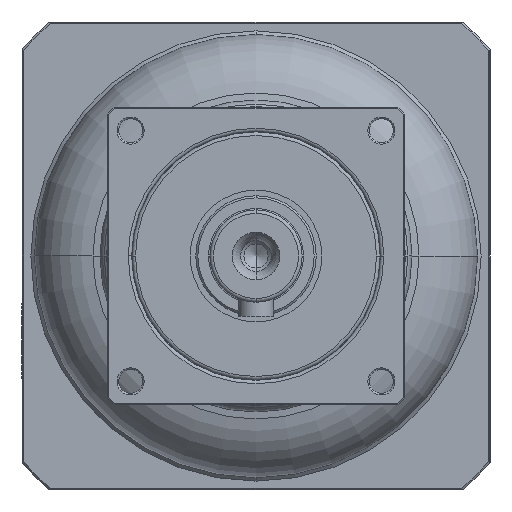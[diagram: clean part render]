
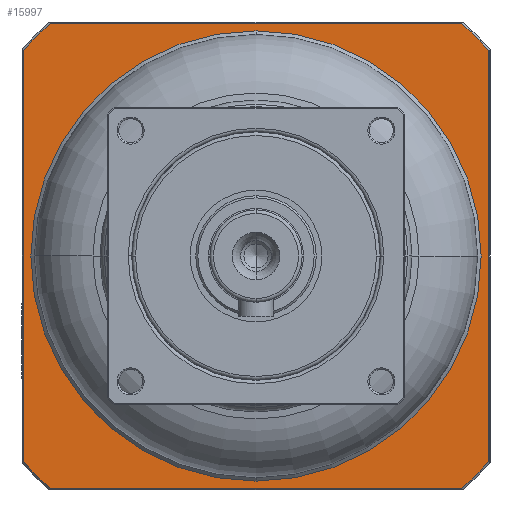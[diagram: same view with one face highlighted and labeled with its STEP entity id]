
A CAD part, left-side view. The second image highlights one B-rep face of the part: STEP entity #15997.
In plain terms, the highlighted planar face has unit normal (-1, 0, 0) as drawn and (0, 0, -1) by its records, which use the part's own axes.
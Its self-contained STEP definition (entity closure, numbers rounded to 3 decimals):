
#14873=CARTESIAN_POINT('',(0.,0.,
2.));
#14874=DIRECTION('',(0.,0.,-1.));
#14875=DIRECTION('',(0.,-1.,0.));
#14876=AXIS2_PLACEMENT_3D('',#14873,#14874,#14875);
#14878=CARTESIAN_POINT('',(0.,0.,
2.));
#14879=DIRECTION('',(0.,0.,-1.));
#14880=DIRECTION('',(0.,1.,0.));
#14881=AXIS2_PLACEMENT_3D('',#14878,#14879,#14880);
#14883=CARTESIAN_POINT('',(0.,0.,2.));
#14884=DIRECTION('',(0.,0.,1.));
#14885=DIRECTION('',(-0.749,-0.663,0.));
#14886=AXIS2_PLACEMENT_3D('',#14883,#14884,#14885);
#14888=DIRECTION('',(1.,0.,0.));
#14889=VECTOR('',#14888,58.055);
#14890=CARTESIAN_POINT('',(-29.028,-32.8,
2.));
#14891=LINE('',#14890,#14889);
#14892=CARTESIAN_POINT('',(0.,0.,2.));
#14893=DIRECTION('',(0.,0.,1.));
#14894=DIRECTION('',(0.663,-0.749,0.));
#14895=AXIS2_PLACEMENT_3D('',#14892,#14893,#14894);
#14897=DIRECTION('',(0.,1.,0.));
#14898=VECTOR('',#14897,58.055);
#14899=CARTESIAN_POINT('',(32.8,-29.028,
2.));
#14900=LINE('',#14899,#14898);
#14901=CARTESIAN_POINT('',(0.,0.,2.));
#14902=DIRECTION('',(0.,0.,1.));
#14903=DIRECTION('',(0.749,0.663,0.));
#14904=AXIS2_PLACEMENT_3D('',#14901,#14902,#14903);
#14906=DIRECTION('',(-1.,0.,0.));
#14907=VECTOR('',#14906,58.055);
#14908=CARTESIAN_POINT('',(29.028,32.8,2.));
#14909=LINE('',#14908,#14907);
#14910=CARTESIAN_POINT('',(0.,0.,2.));
#14911=DIRECTION('',(0.,0.,1.));
#14912=DIRECTION('',(-0.663,0.749,0.));
#14913=AXIS2_PLACEMENT_3D('',#14910,#14911,#14912);
#14915=DIRECTION('',(0.,-1.,0.));
#14916=VECTOR('',#14915,58.055);
#14917=CARTESIAN_POINT('',(-32.8,29.028,
2.));
#14918=LINE('',#14917,#14916);
#15652=CARTESIAN_POINT('',(0.,-31.75,2.));
#15653=CARTESIAN_POINT('',(0.,31.75,2.));
#15654=VERTEX_POINT('',#15652);
#15655=VERTEX_POINT('',#15653);
#15724=CARTESIAN_POINT('',(-32.8,-29.028,2.));
#15725=CARTESIAN_POINT('',(-29.028,-32.8,2.));
#15726=VERTEX_POINT('',#15724);
#15727=VERTEX_POINT('',#15725);
#15732=CARTESIAN_POINT('',(29.028,-32.8,
2.));
#15733=VERTEX_POINT('',#15732);
#15736=CARTESIAN_POINT('',(32.8,-29.028,2.));
#15737=VERTEX_POINT('',#15736);
#15740=CARTESIAN_POINT('',(32.8,29.028,2.));
#15741=VERTEX_POINT('',#15740);
#15744=CARTESIAN_POINT('',(29.028,32.8,2.));
#15745=VERTEX_POINT('',#15744);
#15748=CARTESIAN_POINT('',(-29.028,32.8,
2.));
#15749=VERTEX_POINT('',#15748);
#15754=CARTESIAN_POINT('',(-32.8,29.028,2.));
#15755=VERTEX_POINT('',#15754);
#15969=CARTESIAN_POINT('',(0.,0.,2.));
#15970=DIRECTION('',(0.,0.,1.));
#15971=DIRECTION('',(0.,1.,0.));
#15972=AXIS2_PLACEMENT_3D('',#15969,#15970,#15971);
#15973=PLANE('',#15972);
#15975=ORIENTED_EDGE('',*,*,#15974,.T.);
#15977=ORIENTED_EDGE('',*,*,#15976,.T.);
#15979=ORIENTED_EDGE('',*,*,#15978,.T.);
#15981=ORIENTED_EDGE('',*,*,#15980,.T.);
#15983=ORIENTED_EDGE('',*,*,#15982,.T.);
#15985=ORIENTED_EDGE('',*,*,#15984,.T.);
#15987=ORIENTED_EDGE('',*,*,#15986,.T.);
#15989=ORIENTED_EDGE('',*,*,#15988,.T.);
#15990=EDGE_LOOP('',(#15975,#15977,#15979,#15981,#15983,#15985,#15987,#15989));
#15991=FACE_OUTER_BOUND('',#15990,.F.);
#15993=ORIENTED_EDGE('',*,*,#15992,.T.);
#15994=ORIENTED_EDGE('',*,*,#15959,.T.);
#15995=EDGE_LOOP('',(#15993,#15994));
#15996=FACE_BOUND('',#15995,.F.);
#15997=ADVANCED_FACE('',(#15991,#15996),#15973,.F.);
#14877=CIRCLE('',#14876,31.75);
#14882=CIRCLE('',#14881,31.75);
#14887=CIRCLE('',#14886,43.8);
#14896=CIRCLE('',#14895,43.8);
#14905=CIRCLE('',#14904,43.8);
#14914=CIRCLE('',#14913,43.8);
#15959=EDGE_CURVE('',#15655,#15654,#14882,.T.);
#15974=EDGE_CURVE('',#15726,#15727,#14887,.T.);
#15976=EDGE_CURVE('',#15727,#15733,#14891,.T.);
#15978=EDGE_CURVE('',#15733,#15737,#14896,.T.);
#15980=EDGE_CURVE('',#15737,#15741,#14900,.T.);
#15982=EDGE_CURVE('',#15741,#15745,#14905,.T.);
#15984=EDGE_CURVE('',#15745,#15749,#14909,.T.);
#15986=EDGE_CURVE('',#15749,#15755,#14914,.T.);
#15988=EDGE_CURVE('',#15755,#15726,#14918,.T.);
#15992=EDGE_CURVE('',#15654,#15655,#14877,.T.);
